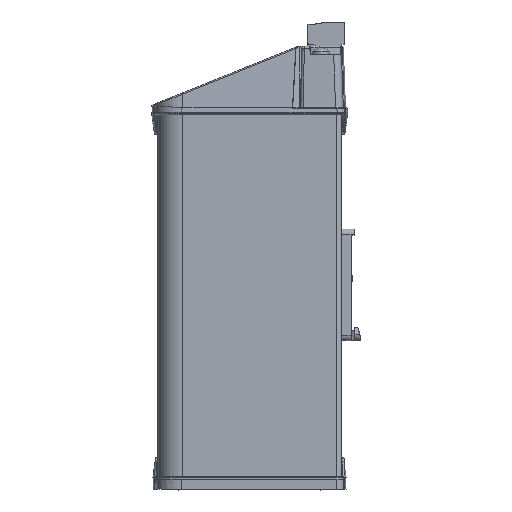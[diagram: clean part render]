
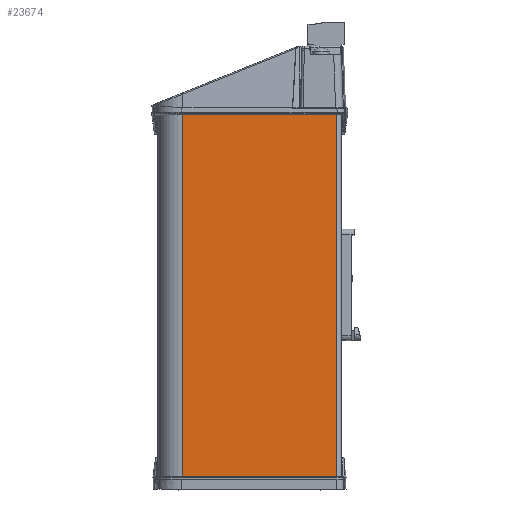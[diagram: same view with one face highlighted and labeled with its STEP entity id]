
A CAD part, left-side view. The second image highlights one B-rep face of the part: STEP entity #23674.
In plain terms, the highlighted planar face has unit normal (-1, 0, 0) as drawn and (0, 1, 0) by its records, which use the part's own axes.
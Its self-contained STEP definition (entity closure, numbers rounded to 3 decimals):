
#1242 = EDGE_CURVE ( 'NONE', #4622, #25410, #1947, .T. ) ;
#1947 = LINE ( 'NONE', #10223, #4490 ) ;
#4490 = VECTOR ( 'NONE', #26108, 1000. ) ;
#4622 = VERTEX_POINT ( 'NONE', #17277 ) ;
#4655 = DIRECTION ( 'NONE',  ( -1., 0., 0. ) ) ;
#6463 = CARTESIAN_POINT ( 'NONE',  ( -2., 24.5, 150. ) ) ;
#7581 = LINE ( 'NONE', #38902, #32394 ) ;
#8913 = PLANE ( 'NONE',  #37415 ) ;
#9102 = ORIENTED_EDGE ( 'NONE', *, *, #15381, .T. ) ;
#9682 = DIRECTION ( 'NONE',  ( 0., 0., -1. ) ) ;
#10223 = CARTESIAN_POINT ( 'NONE',  ( -65., 24.5, 100. ) ) ;
#10261 = VERTEX_POINT ( 'NONE', #36854 ) ;
#11130 = VECTOR ( 'NONE', #20257, 1000. ) ;
#11690 = VECTOR ( 'NONE', #9682, 1000. ) ;
#12057 = ORIENTED_EDGE ( 'NONE', *, *, #40838, .F. ) ;
#13369 = EDGE_LOOP ( 'NONE', ( #9102, #38064, #12057, #14919 ) ) ;
#14919 = ORIENTED_EDGE ( 'NONE', *, *, #38468, .T. ) ;
#15381 = EDGE_CURVE ( 'NONE', #42858, #25410, #7581, .T. ) ;
#16638 = LINE ( 'NONE', #6463, #11130 ) ;
#17277 = CARTESIAN_POINT ( 'NONE',  ( -65., 24.5, 150. ) ) ;
#20257 = DIRECTION ( 'NONE',  ( -1., 0., 0. ) ) ;
#22702 = DIRECTION ( 'NONE',  ( 0., -1., 0. ) ) ;
#23674 = ADVANCED_FACE ( 'NONE', ( #35365 ), #8913, .F. ) ;
#25410 = VERTEX_POINT ( 'NONE', #33630 ) ;
#26108 = DIRECTION ( 'NONE',  ( 0., 0., -1. ) ) ;
#32025 = CARTESIAN_POINT ( 'NONE',  ( -2., 24.5, 100. ) ) ;
#32394 = VECTOR ( 'NONE', #4655, 1000. ) ;
#33630 = CARTESIAN_POINT ( 'NONE',  ( -65., 24.5, 0. ) ) ;
#35365 = FACE_OUTER_BOUND ( 'NONE', #13369, .T. ) ;
#36421 = DIRECTION ( 'NONE',  ( 1., 0., 0. ) ) ;
#36854 = CARTESIAN_POINT ( 'NONE',  ( -2., 24.5, 150. ) ) ;
#37415 = AXIS2_PLACEMENT_3D ( 'NONE', #32025, #22702, #36421 ) ;
#38064 = ORIENTED_EDGE ( 'NONE', *, *, #1242, .F. ) ;
#38468 = EDGE_CURVE ( 'NONE', #10261, #42858, #39873, .T. ) ;
#38902 = CARTESIAN_POINT ( 'NONE',  ( -2., 24.5, 0. ) ) ;
#39873 = LINE ( 'NONE', #43271, #11690 ) ;
#40838 = EDGE_CURVE ( 'NONE', #10261, #4622, #16638, .T. ) ;
#41447 = CARTESIAN_POINT ( 'NONE',  ( -2., 24.5, 0. ) ) ;
#42858 = VERTEX_POINT ( 'NONE', #41447 ) ;
#43271 = CARTESIAN_POINT ( 'NONE',  ( -2., 24.5, 100. ) ) ;
